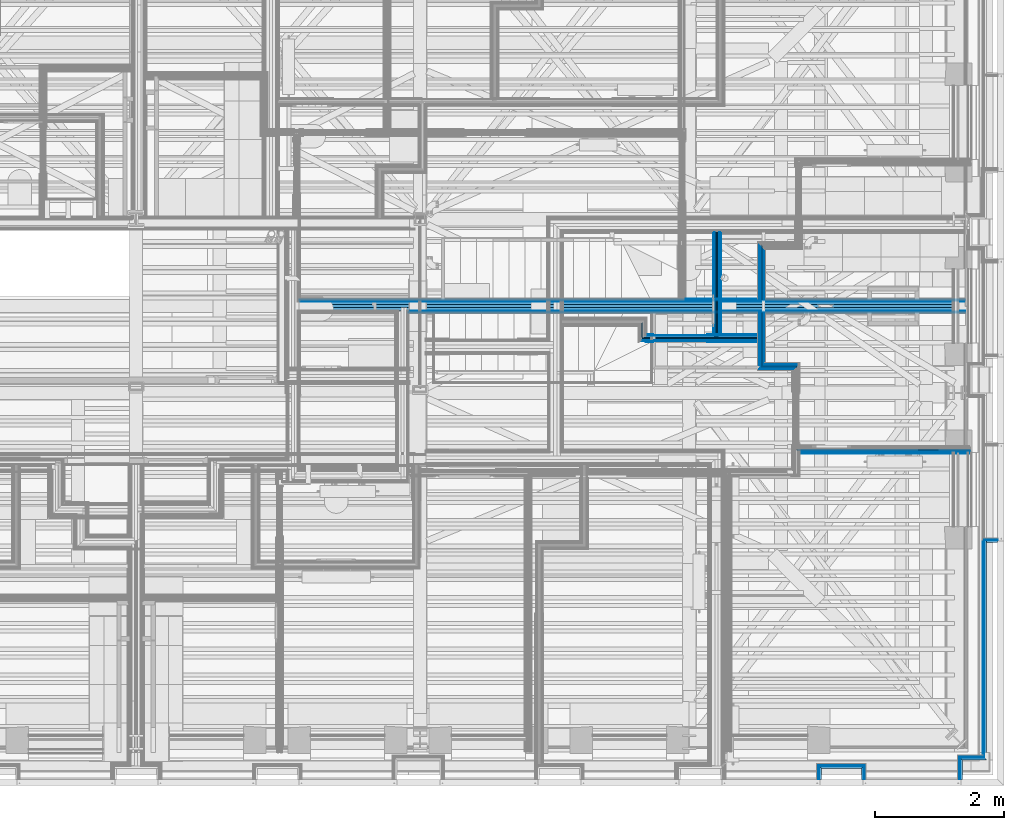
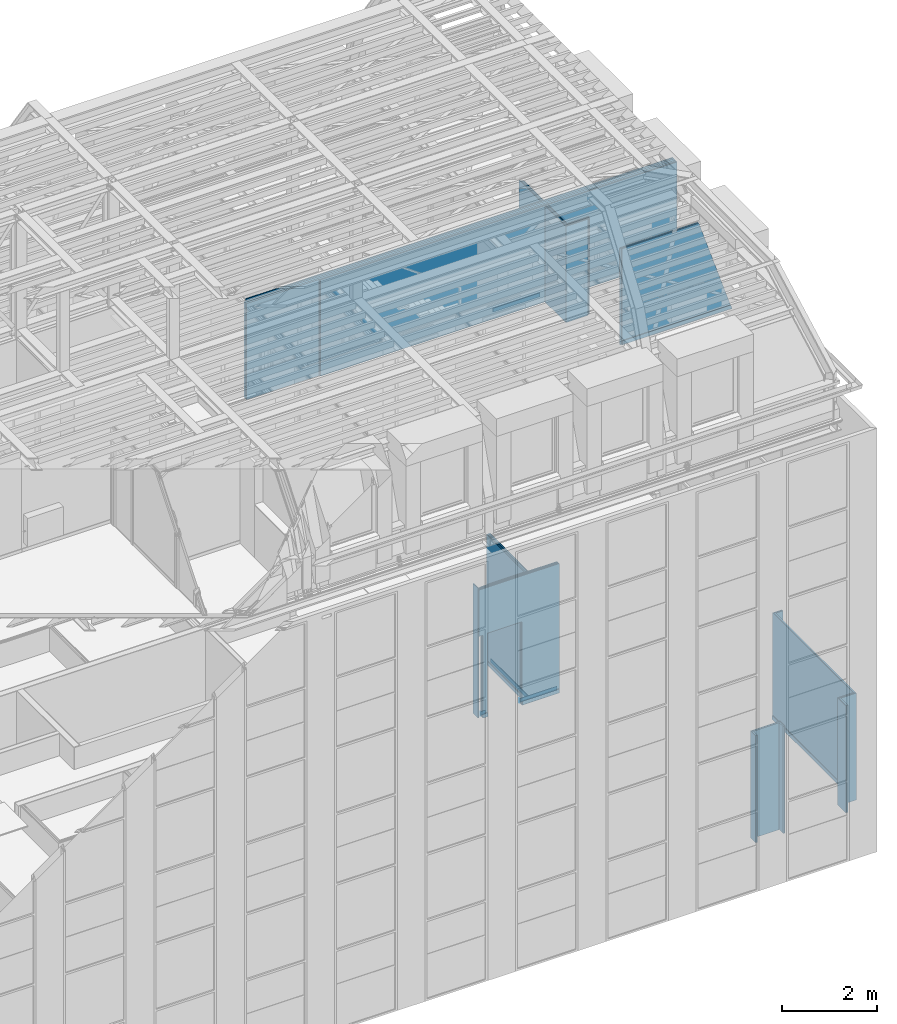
# One storey, part 54 of 183: 59 building element parts, 2 openings, 15 elements without a shape of their own.
"""IFC2X3 building model written with IfcOpenShell, lengths in metres."""

from ifc_helpers import new_model, entity, si_unit, converted_unit, derived_unit, money_unit, direction, frame, frame_2d, origin_with_axes, place, context, subcontext, project, spatial, polyline, rectangle, outline, extrude, clip, halfspace, material, type_object, element, aggregate, save


model = new_model("IFC2X3")

# Units and contexts
model_context = context("Model", 3, precision=1e-05, world=origin_with_axes(), true_north=direction((0.0, 1.0)))
body_context = subcontext(model_context, "Body", "Model", "MODEL_VIEW", scale=1.0)
ifc_project = project(units=[si_unit("LENGTHUNIT", "METRE"), si_unit("AREAUNIT", "SQUARE_METRE"), si_unit("VOLUMEUNIT", "CUBIC_METRE"), si_unit("ABSORBEDDOSEUNIT", "GRAY"), si_unit("AMOUNTOFSUBSTANCEUNIT", "MOLE"), si_unit("DOSEEQUIVALENTUNIT", "SIEVERT"), si_unit("ELECTRICCAPACITANCEUNIT", "FARAD"), si_unit("ELECTRICCHARGEUNIT", "COULOMB"), si_unit("ELECTRICCONDUCTANCEUNIT", "SIEMENS"), si_unit("ELECTRICCURRENTUNIT", "AMPERE"), si_unit("ELECTRICRESISTANCEUNIT", "OHM"), si_unit("ELECTRICVOLTAGEUNIT", "VOLT"), si_unit("ENERGYUNIT", "JOULE"), si_unit("FORCEUNIT", "NEWTON"), si_unit("FREQUENCYUNIT", "HERTZ"), si_unit("ILLUMINANCEUNIT", "LUX"), si_unit("INDUCTANCEUNIT", "HENRY"), si_unit("LUMINOUSFLUXUNIT", "LUMEN"), si_unit("LUMINOUSINTENSITYUNIT", "CANDELA"), si_unit("MAGNETICFLUXDENSITYUNIT", "TESLA"), si_unit("MAGNETICFLUXUNIT", "WEBER"), si_unit("MASSUNIT", "GRAM"), converted_unit("PLANEANGLEUNIT", "degree", entity("IfcReal", 0.0174532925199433), si_unit("PLANEANGLEUNIT", "RADIAN"), dimensions=[0, 0, 0, 0, 0, 0, 0]), si_unit("POWERUNIT", "WATT"), si_unit("PRESSUREUNIT", "PASCAL"), si_unit("RADIOACTIVITYUNIT", "BECQUEREL"), si_unit("SOLIDANGLEUNIT", "STERADIAN"), si_unit("THERMODYNAMICTEMPERATUREUNIT", "KELVIN"), si_unit("TIMEUNIT", "SECOND"), derived_unit("ACCELERATIONUNIT", [(si_unit("LENGTHUNIT", "METRE"), 1), (si_unit("TIMEUNIT", "SECOND"), -2)]), derived_unit("ANGULARVELOCITYUNIT", [(converted_unit("PLANEANGLEUNIT", "degree", entity("IfcReal", 0.0174532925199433), si_unit("PLANEANGLEUNIT", "RADIAN"), dimensions=[0, 0, 0, 0, 0, 0, 0]), 1), (si_unit("TIMEUNIT", "SECOND"), -1)]), derived_unit("CURVATUREUNIT", [(converted_unit("PLANEANGLEUNIT", "degree", entity("IfcReal", 0.0174532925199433), si_unit("PLANEANGLEUNIT", "RADIAN"), dimensions=[0, 0, 0, 0, 0, 0, 0]), 1), (si_unit("LENGTHUNIT", "METRE"), -1)]), derived_unit("DYNAMICVISCOSITYUNIT", [(si_unit("PRESSUREUNIT", "PASCAL"), 1), (si_unit("TIMEUNIT", "SECOND"), 1)]), derived_unit("HEATFLUXDENSITYUNIT", [(si_unit("POWERUNIT", "WATT"), 1), (si_unit("LENGTHUNIT", "METRE"), -2)]), derived_unit("HEATINGVALUEUNIT", [(si_unit("ENERGYUNIT", "JOULE"), 1), (si_unit("MASSUNIT", "GRAM"), -1)]), derived_unit("INTEGERCOUNTRATEUNIT", [(si_unit("TIMEUNIT", "SECOND"), -1)]), derived_unit("IONCONCENTRATIONUNIT", [(si_unit("MASSUNIT", "GRAM"), 1), (si_unit("VOLUMEUNIT", "CUBIC_METRE"), -1)]), derived_unit("ISOTHERMALMOISTURECAPACITYUNIT", [(si_unit("VOLUMEUNIT", "CUBIC_METRE"), 1), (si_unit("MASSUNIT", "GRAM"), -1)]), derived_unit("KINEMATICVISCOSITYUNIT", [(si_unit("AREAUNIT", "SQUARE_METRE"), 1), (si_unit("TIMEUNIT", "SECOND"), -1)]), derived_unit("LINEARFORCEUNIT", [(si_unit("FORCEUNIT", "NEWTON"), 1), (si_unit("LENGTHUNIT", "METRE"), -1)]), derived_unit("LINEARMOMENTUNIT", [(si_unit("FORCEUNIT", "NEWTON"), 1), (si_unit("LENGTHUNIT", "METRE"), -1)]), derived_unit("LINEARSTIFFNESSUNIT", [(si_unit("FORCEUNIT", "NEWTON"), 1), (si_unit("LENGTHUNIT", "METRE"), -1)]), derived_unit("LINEARVELOCITYUNIT", [(si_unit("LENGTHUNIT", "METRE"), 1), (si_unit("TIMEUNIT", "SECOND"), -1)]), derived_unit("LUMINOUSINTENSITYDISTRIBUTIONUNIT", [(si_unit("LUMINOUSINTENSITYUNIT", "CANDELA"), 1), (si_unit("LUMINOUSFLUXUNIT", "LUMEN"), -1)]), derived_unit("MASSDENSITYUNIT", [(si_unit("MASSUNIT", "GRAM"), 1), (si_unit("VOLUMEUNIT", "CUBIC_METRE"), -1)]), derived_unit("MASSFLOWRATEUNIT", [(si_unit("MASSUNIT", "GRAM"), 1), (si_unit("TIMEUNIT", "SECOND"), -1)]), derived_unit("MASSPERLENGTHUNIT", [(si_unit("MASSUNIT", "GRAM"), 1), (si_unit("LENGTHUNIT", "METRE"), -1)]), derived_unit("MODULUSOFELASTICITYUNIT", [(si_unit("FORCEUNIT", "NEWTON"), 1), (si_unit("AREAUNIT", "SQUARE_METRE"), -1)]), derived_unit("MODULUSOFLINEARSUBGRADEREACTIONUNIT", [(si_unit("FORCEUNIT", "NEWTON"), 1), (si_unit("LENGTHUNIT", "METRE"), -2)]), derived_unit("MODULUSOFROTATIONALSUBGRADEREACTIONUNIT", [(si_unit("FORCEUNIT", "NEWTON"), 1), (si_unit("LENGTHUNIT", "METRE"), 1)]), derived_unit("MODULUSOFSUBGRADEREACTIONUNIT", [(si_unit("FORCEUNIT", "NEWTON"), 1), (si_unit("VOLUMEUNIT", "CUBIC_METRE"), -1)]), derived_unit("MOISTUREDIFFUSIVITYUNIT", [(si_unit("VOLUMEUNIT", "CUBIC_METRE"), 1), (si_unit("TIMEUNIT", "SECOND"), -1)]), derived_unit("MOLECULARWEIGHTUNIT", [(si_unit("MASSUNIT", "GRAM"), 1), (si_unit("AMOUNTOFSUBSTANCEUNIT", "MOLE"), -1)]), derived_unit("PLANARFORCEUNIT", [(si_unit("FORCEUNIT", "NEWTON"), 1), (si_unit("LENGTHUNIT", "METRE"), -2)]), derived_unit("ROTATIONALFREQUENCYUNIT", [(si_unit("TIMEUNIT", "SECOND"), -1)]), derived_unit("ROTATIONALMASSUNIT", [(si_unit("MASSUNIT", "GRAM"), 1), (si_unit("LENGTHUNIT", "METRE"), 2)]), derived_unit("ROTATIONALSTIFFNESSUNIT", [(si_unit("FORCEUNIT", "NEWTON"), 1), (si_unit("LENGTHUNIT", "METRE"), 1), (converted_unit("PLANEANGLEUNIT", "degree", entity("IfcReal", 0.0174532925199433), si_unit("PLANEANGLEUNIT", "RADIAN"), dimensions=[0, 0, 0, 0, 0, 0, 0]), -1)]), derived_unit("SECTIONAREAINTEGRALUNIT", [(si_unit("LENGTHUNIT", "METRE"), 5)]), derived_unit("SECTIONMODULUSUNIT", [(si_unit("LENGTHUNIT", "METRE"), 3)]), derived_unit("SHEARMODULUSUNIT", [(si_unit("FORCEUNIT", "NEWTON"), 1), (si_unit("AREAUNIT", "SQUARE_METRE"), -1)]), derived_unit("SOUNDPOWERUNIT", [(si_unit("ENERGYUNIT", "JOULE"), 1), (si_unit("TIMEUNIT", "SECOND"), -1)]), derived_unit("SPECIFICHEATCAPACITYUNIT", [(si_unit("FORCEUNIT", "NEWTON"), 1), (si_unit("MASSUNIT", "GRAM"), -1), (si_unit("THERMODYNAMICTEMPERATUREUNIT", "KELVIN"), -1)]), derived_unit("TEMPERATUREGRADIENTUNIT", [(si_unit("THERMODYNAMICTEMPERATUREUNIT", "KELVIN"), 1), (si_unit("LENGTHUNIT", "METRE"), -1)]), derived_unit("THERMALADMITTANCEUNIT", [(si_unit("POWERUNIT", "WATT"), 1), (si_unit("AREAUNIT", "SQUARE_METRE"), -1), (si_unit("THERMODYNAMICTEMPERATUREUNIT", "KELVIN"), -1)]), derived_unit("THERMALCONDUCTANCEUNIT", [(si_unit("POWERUNIT", "WATT"), 1), (si_unit("LENGTHUNIT", "METRE"), -1), (si_unit("THERMODYNAMICTEMPERATUREUNIT", "KELVIN"), -1)]), derived_unit("THERMALEXPANSIONCOEFFICIENTUNIT", [(si_unit("THERMODYNAMICTEMPERATUREUNIT", "KELVIN"), -1)]), derived_unit("THERMALRESISTANCEUNIT", [(si_unit("AREAUNIT", "SQUARE_METRE"), 1), (si_unit("POWERUNIT", "WATT"), -1)]), derived_unit("THERMALTRANSMITTANCEUNIT", [(si_unit("POWERUNIT", "WATT"), 1), (si_unit("AREAUNIT", "SQUARE_METRE"), -1), (si_unit("THERMODYNAMICTEMPERATUREUNIT", "KELVIN"), -1)]), derived_unit("TORQUEUNIT", [(si_unit("FORCEUNIT", "NEWTON"), 1), (si_unit("LENGTHUNIT", "METRE"), 1)]), derived_unit("VAPORPERMEABILITYUNIT", [(si_unit("MASSUNIT", "GRAM"), 1), (si_unit("TIMEUNIT", "SECOND"), -1)]), derived_unit("VOLUMETRICFLOWRATEUNIT", [(si_unit("VOLUMEUNIT", "CUBIC_METRE"), 1), (si_unit("TIMEUNIT", "SECOND"), -1)]), derived_unit("WARPINGCONSTANTUNIT", [(si_unit("LENGTHUNIT", "METRE"), 6)]), derived_unit("WARPINGMOMENTUNIT", [(si_unit("FORCEUNIT", "NEWTON"), 1), (si_unit("LENGTHUNIT", "METRE"), 2)]), money_unit("GBP")], contexts=[model_context])

# Site, building, storey
site_placement = place(None, origin_with_axes())
site = spatial("IfcSite", under=ifc_project, at=site_placement, Name="Site", CompositionType="ELEMENT")
building_placement = place(site_placement, origin_with_axes())
building = spatial("IfcBuilding", under=site, at=building_placement, Name="Building01", CompositionType="ELEMENT")
storey_placement = place(building_placement, frame((0.0, 0.0, 5.15), z_axis=(0.0, 0.0, 1.0), x_axis=(1.0, 0.0, 0.0)))
storey = spatial("IfcBuildingStorey", under=building, at=storey_placement, Name="1F", CompositionType="ELEMENT", Elevation=5.15)

# Wall, building element parts
wall_type_1 = type_object("IfcWallType", Name="SHE_A-Walls_Type06d_ExternalWallInsulation_48mm", PredefinedType="NOTDEFINED")
wall_1_placement = place(storey_placement, frame((24.143, 0.1, 0.0), z_axis=(0.0, 0.0, 1.0), x_axis=(0.0, 1.0, 0.0)))
wall_1 = element("IfcWall", 1, at=wall_1_placement, inside=storey, type_object=wall_type_1, Name="6D", ObjectType="SHE_A-Walls_Type06d_ExternalWallInsulation_48mm")
ifc_material_1 = material(Name="A_BSUK_Insulation")
placement_1 = place(wall_1_placement, origin_with_axes())
building_element_part_1 = element("IfcBuildingElementPart", 2, at=placement_1, material=ifc_material_1, Name="1", context=body_context, shape_type="SweptSolid", body=[
    extrude(outline(polyline([(0.206, 0.036), (0.0, 0.036), (0.0, 0.0), (0.17, 0.0), (0.206, 0.036)])), origin_with_axes(), (0.0, 0.0, 1.0), 2.74),
])
ifc_material_2 = material(Name="A_BSUK_WallInternal_Finishes_Plasterboard")
building_element_part_2 = element("IfcBuildingElementPart", 3, at=placement_1, material=ifc_material_2, Name="2", context=body_context, shape_type="SweptSolid", body=[
    extrude(outline(polyline([(0.218, 0.048), (0.0, 0.048), (0.0, 0.035), (0.205, 0.035), (0.218, 0.048)])), origin_with_axes(), (0.0, 0.0, 1.0), 2.74),
])
aggregate(wall_1, [building_element_part_1, building_element_part_2])

wall_2_placement = place(storey_placement, frame((24.143, 0.27, 0.0), z_axis=(0.0, 0.0, 1.0), x_axis=(1.0, 0.0, 0.0)))
wall_2 = element("IfcWall", 4, at=wall_2_placement, inside=storey, type_object=wall_type_1, Name="6D", ObjectType="SHE_A-Walls_Type06d_ExternalWallInsulation_48mm")
placement_2 = place(wall_2_placement, origin_with_axes())
building_element_part_3 = element("IfcBuildingElementPart", 5, at=placement_2, material=ifc_material_1, Name="1", context=body_context, shape_type="SweptSolid", body=[
    extrude(outline(polyline([(0.66, 0.036), (-0.036, 0.036), (0.0, 0.0), (0.624, 0.0), (0.66, 0.036)])), origin_with_axes(), (0.0, 0.0, 1.0), 2.74),
])
building_element_part_4 = element("IfcBuildingElementPart", 6, at=placement_2, material=ifc_material_2, Name="2", context=body_context, shape_type="SweptSolid", body=[
    extrude(outline(polyline([(0.672, 0.048), (-0.048, 0.048), (-0.035, 0.035), (0.659, 0.035), (0.672, 0.048)])), origin_with_axes(), (0.0, 0.0, 1.0), 2.74),
])
aggregate(wall_2, [building_element_part_3, building_element_part_4])

wall_3_placement = place(storey_placement, frame((24.767, 0.27, 0.0), z_axis=(0.0, 0.0, 1.0), x_axis=(0.0, -1.0, 0.0)))
wall_3 = element("IfcWall", 7, at=wall_3_placement, inside=storey, type_object=wall_type_1, Name="6D", ObjectType="SHE_A-Walls_Type06d_ExternalWallInsulation_48mm")
placement_3 = place(wall_3_placement, origin_with_axes())
building_element_part_5 = element("IfcBuildingElementPart", 8, at=placement_3, material=ifc_material_1, Name="1", context=body_context, shape_type="SweptSolid", body=[
    extrude(outline(polyline([(-0.036, 0.036), (0.0, 0.0), (0.17, 0.0), (0.17, 0.036), (-0.036, 0.036)])), origin_with_axes(), (0.0, 0.0, 1.0), 2.74),
])
building_element_part_6 = element("IfcBuildingElementPart", 9, at=placement_3, material=ifc_material_2, Name="2", context=body_context, shape_type="SweptSolid", body=[
    extrude(outline(polyline([(-0.048, 0.048), (-0.035, 0.035), (0.17, 0.035), (0.17, 0.048), (-0.048, 0.048)])), origin_with_axes(), (0.0, 0.0, 1.0), 2.74),
])
aggregate(wall_3, [building_element_part_5, building_element_part_6])

wall_4_placement = place(storey_placement, frame((26.333, 0.1, 0.0), z_axis=(0.0, 0.0, 1.0), x_axis=(0.0, 1.0, 0.0)))
wall_4 = element("IfcWall", 10, at=wall_4_placement, inside=storey, type_object=wall_type_1, Name="6D", ObjectType="SHE_A-Walls_Type06d_ExternalWallInsulation_48mm")
placement_4 = place(wall_4_placement, origin_with_axes())
building_element_part_7 = element("IfcBuildingElementPart", 11, at=placement_4, material=ifc_material_1, Name="1", context=body_context, shape_type="SweptSolid", body=[
    extrude(outline(polyline([(0.336, 0.036), (0.0, 0.036), (0.0, 0.0), (0.3, 0.0), (0.336, 0.036)])), origin_with_axes(), (0.0, 0.0, 1.0), 2.74),
])
building_element_part_8 = element("IfcBuildingElementPart", 12, at=placement_4, material=ifc_material_2, Name="2", context=body_context, shape_type="SweptSolid", body=[
    extrude(outline(polyline([(0.348, 0.048), (0.0, 0.048), (0.0, 0.035), (0.335, 0.035), (0.348, 0.048)])), origin_with_axes(), (0.0, 0.0, 1.0), 2.74),
])
aggregate(wall_4, [building_element_part_7, building_element_part_8])

wall_5_placement = place(storey_placement, frame((26.333, 0.4, 0.0), z_axis=(0.0, 0.0, 1.0), x_axis=(1.0, 0.0, 0.0)))
wall_5 = element("IfcWall", 13, at=wall_5_placement, inside=storey, type_object=wall_type_1, Name="6D", ObjectType="SHE_A-Walls_Type06d_ExternalWallInsulation_48mm")
placement_5 = place(wall_5_placement, origin_with_axes())
building_element_part_9 = element("IfcBuildingElementPart", 14, at=placement_5, material=ifc_material_1, Name="1", context=body_context, shape_type="SweptSolid", body=[
    extrude(outline(polyline([(0.341, 0.036), (-0.036, 0.036), (0.0, 0.0), (0.377, 0.0), (0.341, 0.036)])), origin_with_axes(), (0.0, 0.0, 1.0), 2.74),
])
building_element_part_10 = element("IfcBuildingElementPart", 15, at=placement_5, material=ifc_material_2, Name="2", context=body_context, shape_type="SweptSolid", body=[
    extrude(outline(polyline([(0.329, 0.048), (-0.048, 0.048), (-0.035, 0.035), (0.342, 0.035), (0.329, 0.048)])), origin_with_axes(), (0.0, 0.0, 1.0), 2.74),
])
aggregate(wall_5, [building_element_part_9, building_element_part_10])

wall_6_placement = place(storey_placement, frame((26.71, 0.4, 0.0), z_axis=(0.0, 0.0, 1.0), x_axis=(0.0, 1.0, 0.0)))
wall_6 = element("IfcWall", 16, at=wall_6_placement, inside=storey, type_object=wall_type_1, Name="6D", ObjectType="SHE_A-Walls_Type06d_ExternalWallInsulation_48mm")
placement_6 = place(wall_6_placement, origin_with_axes())
building_element_part_11 = element("IfcBuildingElementPart", 17, at=placement_6, material=ifc_material_1, Name="1", context=body_context, shape_type="SweptSolid", body=[
    extrude(outline(polyline([(3.41018, 0.036), (0.036, 0.036), (0.0, 0.0), (3.41018, 0.0), (3.41018, 0.036)])), origin_with_axes(), (0.0, 0.0, 1.0), 2.74),
])
building_element_part_12 = element("IfcBuildingElementPart", 18, at=placement_6, material=ifc_material_2, Name="2", context=body_context, shape_type="SweptSolid", body=[
    extrude(outline(polyline([(3.42218, 0.048), (0.048, 0.048), (0.035, 0.035), (3.42218, 0.035), (3.42218, 0.048)])), origin_with_axes(), (0.0, 0.0, 1.0), 2.74),
])
ifc_material_3 = material(Name="A_BSUK_Walls_Timber")
building_element_part_13 = element("IfcBuildingElementPart", 19, at=placement_6, material=ifc_material_3, Name="3", context=body_context, shape_type="SweptSolid", body=[
    extrude(outline(polyline([(0.063, 0.063), (0.048, 0.048), (3.42218, 0.048), (3.42218, 0.063), (0.063, 0.063)])), frame((0.0, 0.0, 0.015), z_axis=(0.0, 0.0, 1.0), x_axis=(1.0, 0.0, 0.0)), (0.0, 0.0, 1.0), 0.1),
])
aggregate(wall_6, [building_element_part_11, building_element_part_12, building_element_part_13])

# Wall, building element part
wall_type_2 = type_object("IfcWallType", Name="SHE_A-Walls_Type05a_Partition_95mm_tall", PredefinedType="NOTDEFINED")
wall_7_placement = place(storey_placement, frame((21.382661, 6.965, 0.0), z_axis=(0.0, 0.0, 1.0), x_axis=(0.0, 1.0, 0.0)))
wall_7 = element("IfcWall", 20, at=wall_7_placement, inside=storey, type_object=wall_type_2, Name="5A", ObjectType="SHE_A-Walls_Type05a_Partition_95mm_tall")
ifc_material_4 = material(Name="Air Cavity")
building_element_part_14_placement = place(wall_7_placement, origin_with_axes())
building_element_part_14 = element("IfcBuildingElementPart", 21, at=building_element_part_14_placement, material=ifc_material_4, Name="5", context=body_context, shape_type="SweptSolid", body=[
    extrude(outline(polyline([(0.202, 0.048), (0.0, 0.048), (0.0, 0.025), (0.225, 0.025), (0.202, 0.048)])), origin_with_axes(), (0.0, 0.0, 1.0), 3.32),
])
aggregate(wall_7, [building_element_part_14])

# Wall, openings, building element parts
wall_8_placement = place(storey_placement, frame((21.357661, 6.94, 0.0), z_axis=(0.0, 0.0, 1.0), x_axis=(1.0, 0.0, 0.0)))
wall_8 = element("IfcWall", 22, at=wall_8_placement, inside=storey, type_object=wall_type_2, Name="5A", ObjectType="SHE_A-Walls_Type05a_Partition_95mm_tall")
opening_1_placement = place(wall_8_placement, frame((-0.773, -0.05, -0.015), z_axis=(0.0, 0.0, 1.0), x_axis=(1.0, 0.0, 0.0)))
element("IfcOpeningElement", 23, at=opening_1_placement, cuts=wall_8, Name="Opening", ObjectType="Opening", context=body_context, shape_type="SweptSolid", body=[
    extrude(rectangle(XDim=0.834, YDim=2.142, at=frame_2d((-0.417, 1.071), x_axis=(1.0, 0.0))), frame((0.0, 0.0, 0.0), z_axis=(0.0, 1.0, 0.0), x_axis=(-1.0, 0.0, 0.0)), (0.0, 0.0, 1.0), 0.125),
])
opening_2_placement = place(wall_8_placement, frame((0.177, -0.05, 0.0), z_axis=(0.0, 0.0, 1.0), x_axis=(1.0, 0.0, 0.0)))
element("IfcOpeningElement", 24, at=opening_2_placement, cuts=wall_8, Name="Opening", ObjectType="Opening", context=body_context, shape_type="SweptSolid", body=[
    extrude(rectangle(XDim=2.142, YDim=0.834, at=frame_2d((-0.417, 1.071), x_axis=(0.0, -1.0))), frame((0.0, 0.0, 0.0), z_axis=(0.0, 1.0, 0.0), x_axis=(-1.0, 0.0, 0.0)), (0.0, 0.0, 1.0), 0.125),
])
placement_7 = place(wall_8_placement, origin_with_axes())
building_element_part_15 = element("IfcBuildingElementPart", 25, at=placement_7, material=ifc_material_3, Name="1", context=body_context, shape_type="SweptSolid", body=[
    extrude(outline(polyline([(1.913868, -0.035), (-0.035, -0.035), (-0.05, -0.05), (1.913868, -0.05), (1.913868, -0.035)])), frame((0.0, 0.0, 0.015), z_axis=(0.0, 0.0, 1.0), x_axis=(1.0, 0.0, 0.0)), (0.0, 0.0, 1.0), 0.1),
])
building_element_part_16 = element("IfcBuildingElementPart", 26, at=placement_7, material=ifc_material_2, Name="2", context=body_context, shape_type="SweptSolid", body=[
    extrude(outline(polyline([(1.913868, -0.023), (-0.023, -0.023), (-0.035, -0.035), (1.913868, -0.035), (1.913868, -0.023)])), origin_with_axes(), (0.0, 0.0, 1.0), 3.32),
])
building_element_part_17 = element("IfcBuildingElementPart", 27, at=placement_7, material=ifc_material_4, Name="3", context=body_context, shape_type="SweptSolid", body=[
    extrude(outline(polyline([(1.913868, 0.0), (0.0, 0.0), (-0.023, -0.023), (1.913868, -0.023), (1.913868, 0.0)])), origin_with_axes(), (0.0, 0.0, 1.0), 3.32),
])
building_element_part_18 = element("IfcBuildingElementPart", 28, at=placement_7, material=ifc_material_1, Name="4", context=body_context, shape_type="SweptSolid", body=[
    extrude(rectangle(XDim=1.913868, YDim=0.025, at=frame_2d((0.956934, 0.0125), x_axis=(-1.0, 0.0))), origin_with_axes(), (0.0, 0.0, 1.0), 3.32),
])
building_element_part_19 = element("IfcBuildingElementPart", 29, at=placement_7, material=ifc_material_4, Name="5", context=body_context, shape_type="SweptSolid", body=[
    extrude(rectangle(XDim=1.913868, YDim=0.023, at=frame_2d((0.956934, 0.0365), x_axis=(-1.0, 0.0))), origin_with_axes(), (0.0, 0.0, 1.0), 3.32),
])
building_element_part_20 = element("IfcBuildingElementPart", 30, at=placement_7, material=ifc_material_2, Name="6", context=body_context, shape_type="SweptSolid", body=[
    extrude(outline(polyline([(1.131, 0.06), (0.06, 0.06), (0.048, 0.048), (1.131, 0.048), (1.131, 0.06)])), origin_with_axes(), (0.0, 0.0, 1.0), 3.32),
])
building_element_part_21 = element("IfcBuildingElementPart", 31, at=placement_7, material=ifc_material_2, Name="7", context=body_context, shape_type="SweptSolid", body=[
    extrude(outline(polyline([(1.913868, 0.06), (0.06, 0.06), (0.048, 0.048), (1.913868, 0.048), (1.913868, 0.06)])), origin_with_axes(), (0.0, 0.0, 1.0), 3.32),
])
building_element_part_22 = element("IfcBuildingElementPart", 32, at=placement_7, material=ifc_material_3, Name="8", context=body_context, shape_type="SweptSolid", body=[
    extrude(outline(polyline([(1.119, 0.075), (0.075, 0.075), (0.06, 0.06), (1.119, 0.06), (1.119, 0.075)])), frame((0.0, 0.0, 0.015), z_axis=(0.0, 0.0, 1.0), x_axis=(1.0, 0.0, 0.0)), (0.0, 0.0, 1.0), 0.1),
])
building_element_part_23 = element("IfcBuildingElementPart", 33, at=placement_7, material=ifc_material_3, Name="9", context=body_context, shape_type="SweptSolid", body=[
    extrude(outline(polyline([(1.913868, 0.075), (0.075, 0.075), (0.06, 0.06), (1.913868, 0.06), (1.913868, 0.075)])), frame((0.0, 0.0, 0.015), z_axis=(0.0, 0.0, 1.0), x_axis=(1.0, 0.0, 0.0)), (0.0, 0.0, 1.0), 0.1),
])
aggregate(wall_8, [building_element_part_15, building_element_part_16, building_element_part_17, building_element_part_18, building_element_part_19, building_element_part_20, building_element_part_21, building_element_part_22, building_element_part_23])

# Wall, building element parts
wall_9_placement = place(storey_placement, frame((22.536661, 6.965, 0.0), z_axis=(0.0, 0.0, 1.0), x_axis=(0.0, 1.0, 0.0)))
wall_9 = element("IfcWall", 34, at=wall_9_placement, inside=storey, type_object=wall_type_2, Name="5A", ObjectType="SHE_A-Walls_Type05a_Partition_95mm_tall")
placement_8 = place(wall_9_placement, origin_with_axes())
building_element_part_24 = element("IfcBuildingElementPart", 35, at=placement_8, material=ifc_material_3, Name="1", context=body_context, shape_type="SweptSolid", body=[
    extrude(rectangle(XDim=1.565, YDim=0.015, at=frame_2d((0.8325, -0.0425), x_axis=(-1.0, 0.0))), frame((0.0, 0.0, 0.015), z_axis=(0.0, 0.0, 1.0), x_axis=(1.0, 0.0, 0.0)), (0.0, 0.0, 1.0), 0.1),
])
building_element_part_25 = element("IfcBuildingElementPart", 36, at=placement_8, material=ifc_material_2, Name="2", context=body_context, shape_type="SweptSolid", body=[
    extrude(rectangle(XDim=1.595, YDim=0.012, at=frame_2d((0.8325, -0.029), x_axis=(-1.0, 0.0))), origin_with_axes(), (0.0, 0.0, 1.0), 3.32),
])
building_element_part_26 = element("IfcBuildingElementPart", 37, at=placement_8, material=ifc_material_4, Name="3", context=body_context, shape_type="SweptSolid", body=[
    extrude(rectangle(XDim=1.595, YDim=0.023, at=frame_2d((0.8325, -0.0115), x_axis=(-1.0, 0.0))), origin_with_axes(), (0.0, 0.0, 1.0), 3.32),
])
building_element_part_27 = element("IfcBuildingElementPart", 38, at=placement_8, material=ifc_material_1, Name="4", context=body_context, shape_type="SweptSolid", body=[
    extrude(rectangle(XDim=1.63, YDim=0.025, at=frame_2d((0.815, 0.0125), x_axis=(-1.0, 0.0))), origin_with_axes(), (0.0, 0.0, 1.0), 3.32),
])
building_element_part_28 = element("IfcBuildingElementPart", 39, at=placement_8, material=ifc_material_4, Name="5", context=body_context, shape_type="SweptSolid", body=[
    extrude(rectangle(XDim=1.63, YDim=0.023, at=frame_2d((0.815, 0.0365), x_axis=(-1.0, 0.0))), origin_with_axes(), (0.0, 0.0, 1.0), 3.32),
])
building_element_part_29 = element("IfcBuildingElementPart", 40, at=placement_8, material=ifc_material_2, Name="6", context=body_context, shape_type="SweptSolid", body=[
    extrude(rectangle(XDim=1.595, YDim=0.012, at=frame_2d((0.8325, 0.054), x_axis=(-1.0, 0.0))), origin_with_axes(), (0.0, 0.0, 1.0), 3.32),
])
building_element_part_30 = element("IfcBuildingElementPart", 41, at=placement_8, material=ifc_material_3, Name="7", context=body_context, shape_type="SweptSolid", body=[
    extrude(rectangle(XDim=1.565, YDim=0.015, at=frame_2d((0.8325, 0.0675), x_axis=(-1.0, 0.0))), frame((0.0, 0.0, 0.015), z_axis=(0.0, 0.0, 1.0), x_axis=(1.0, 0.0, 0.0)), (0.0, 0.0, 1.0), 0.1),
])
aggregate(wall_9, [building_element_part_24, building_element_part_25, building_element_part_26, building_element_part_27, building_element_part_28, building_element_part_29, building_element_part_30])

wall_10_placement = place(storey_placement, frame((26.71, 3.77418, 0.0), z_axis=(0.0, 0.0, 1.0), x_axis=(1.0, 0.0, 0.0)))
wall_10 = element("IfcWall", 42, at=wall_10_placement, inside=storey, type_object=wall_type_1, Name="6D", ObjectType="SHE_A-Walls_Type06d_ExternalWallInsulation_48mm")
placement_9 = place(wall_10_placement, origin_with_axes())
building_element_part_31 = element("IfcBuildingElementPart", 43, at=placement_9, material=ifc_material_1, Name="1", context=body_context, shape_type="SweptSolid", body=[
    extrude(rectangle(XDim=0.036, YDim=0.17, at=frame_2d((0.085, 0.018), x_axis=(0.0, -1.0))), origin_with_axes(), (0.0, 0.0, 1.0), 2.74),
])
building_element_part_32 = element("IfcBuildingElementPart", 44, at=placement_9, material=ifc_material_2, Name="2", context=body_context, shape_type="SweptSolid", body=[
    extrude(rectangle(XDim=0.013, YDim=0.205, at=frame_2d((0.0675, 0.0415), x_axis=(0.0, -1.0))), origin_with_axes(), (0.0, 0.0, 1.0), 2.74),
])
aggregate(wall_10, [building_element_part_31, building_element_part_32])

wall_type_3 = type_object("IfcWallType", Name="SHE_A-Walls_Type01d_Partywall_200mm_twin", PredefinedType="NOTDEFINED")
wall_11_placement = place(storey_placement, frame((26.380061, 7.474915, 9.78), z_axis=(0.0, 0.0, 1.0), x_axis=(-1.0, 0.0, 0.0)))
wall_11 = element("IfcWall", 45, at=wall_11_placement, inside=storey, type_object=wall_type_3, Name="1D", ObjectType="SHE_A-Walls_Type01d_Partywall_200mm_twin")
placement_10 = place(wall_11_placement, origin_with_axes())
building_element_part_33 = element("IfcBuildingElementPart", 46, at=placement_10, material=ifc_material_3, Name="2", context=body_context, shape_type="SweptSolid", body=[
    extrude(rectangle(XDim=1.143846, YDim=0.015, at=frame_2d((3.773162, -0.0825), x_axis=(-1.0, 0.0))), frame((0.0, 0.0, 0.015), z_axis=(0.0, 0.0, 1.0), x_axis=(1.0, 0.0, 0.0)), (0.0, 0.0, 1.0), 0.1),
])
building_element_part_34 = element("IfcBuildingElementPart", 47, at=placement_10, material=ifc_material_2, Name="5", context=body_context, shape_type="SweptSolid", body=[
    extrude(rectangle(XDim=10.341621, YDim=0.015, at=frame_2d((5.17081, -0.0675), x_axis=(-1.0, 0.0))), origin_with_axes(), (0.0, 0.0, 1.0), 2.468),
])
building_element_part_35 = element("IfcBuildingElementPart", 48, at=placement_10, material=ifc_material_2, Name="6", context=body_context, shape_type="SweptSolid", body=[
    extrude(rectangle(XDim=10.356621, YDim=0.015, at=frame_2d((5.17831, -0.0525), x_axis=(-1.0, 0.0))), origin_with_axes(), (0.0, 0.0, 1.0), 2.468),
])
building_element_part_36 = element("IfcBuildingElementPart", 49, at=placement_10, material=ifc_material_4, Name="7", context=body_context, shape_type="SweptSolid", body=[
    extrude(rectangle(XDim=10.356621, YDim=0.045, at=frame_2d((5.17831, -0.0225), x_axis=(-1.0, 0.0))), origin_with_axes(), (0.0, 0.0, 1.0), 2.468),
])
building_element_part_37 = element("IfcBuildingElementPart", 50, at=placement_10, material=ifc_material_1, Name="8", context=body_context, shape_type="SweptSolid", body=[
    extrude(rectangle(XDim=10.416621, YDim=0.05, at=frame_2d((5.20831, 0.025), x_axis=(-1.0, 0.0))), origin_with_axes(), (0.0, 0.0, 1.0), 2.468),
])
building_element_part_38 = element("IfcBuildingElementPart", 51, at=placement_10, material=ifc_material_4, Name="9", context=body_context, shape_type="SweptSolid", body=[
    extrude(rectangle(XDim=10.416621, YDim=0.045, at=frame_2d((5.20831, 0.0725), x_axis=(-1.0, 0.0))), origin_with_axes(), (0.0, 0.0, 1.0), 2.468),
])
building_element_part_39 = element("IfcBuildingElementPart", 52, at=placement_10, material=ifc_material_2, Name="10", context=body_context, shape_type="SweptSolid", body=[
    extrude(rectangle(XDim=8.656621, YDim=0.015, at=frame_2d((4.32831, 0.1025), x_axis=(-1.0, 0.0))), origin_with_axes(), (0.0, 0.0, 1.0), 2.468),
])
building_element_part_40 = element("IfcBuildingElementPart", 53, at=placement_10, material=ifc_material_2, Name="12", context=body_context, shape_type="SweptSolid", body=[
    extrude(rectangle(XDim=8.641621, YDim=0.015, at=frame_2d((4.32081, 0.1175), x_axis=(-1.0, 0.0))), origin_with_axes(), (0.0, 0.0, 1.0), 2.468),
])
aggregate(wall_11, [building_element_part_33, building_element_part_34, building_element_part_35, building_element_part_36, building_element_part_37, building_element_part_38, building_element_part_39, building_element_part_40])

wall_type_4 = type_object("IfcWallType", Name="SHE_A-Walls_Type05b_Partition_80mm", PredefinedType="NOTDEFINED")
wall_12_placement = place(storey_placement, frame((23.206821, 6.498085, 9.78), z_axis=(0.0, 0.0, 1.0), x_axis=(1.0, 0.0, 0.0)))
wall_12 = element("IfcWall", 54, at=wall_12_placement, inside=storey, type_object=wall_type_4, Name="5B", ObjectType="SHE_A-Walls_Type05b_Partition_80mm")
placement_11 = place(wall_12_placement, origin_with_axes())
building_element_part_41 = element("IfcBuildingElementPart", 55, at=placement_11, material=ifc_material_2, Name="2", context=body_context, shape_type="SweptSolid", body=[
    extrude(outline(polyline([(0.518179, -0.013), (-0.013, -0.013), (-0.028, -0.028), (0.503179, -0.028), (0.518179, -0.013)])), origin_with_axes(), (0.0, 0.0, 1.0), 2.468),
])
building_element_part_42 = element("IfcBuildingElementPart", 56, at=placement_11, material=ifc_material_4, Name="3", context=body_context, shape_type="SweptSolid", body=[
    extrude(outline(polyline([(0.531179, 0.0), (0.0, 0.0), (-0.013, -0.013), (0.518179, -0.013), (0.531179, 0.0)])), origin_with_axes(), (0.0, 0.0, 1.0), 2.468),
])
building_element_part_43 = element("IfcBuildingElementPart", 57, at=placement_11, material=ifc_material_1, Name="4", context=body_context, shape_type="SweptSolid", body=[
    extrude(outline(polyline([(0.556179, 0.025), (0.025, 0.025), (0.0, 0.0), (0.556179, 0.0), (0.556179, 0.025)])), origin_with_axes(), (0.0, 0.0, 1.0), 2.468),
])
building_element_part_44 = element("IfcBuildingElementPart", 58, at=placement_11, material=ifc_material_4, Name="5", context=body_context, shape_type="SweptSolid", body=[
    extrude(outline(polyline([(0.556179, 0.037), (0.037, 0.037), (0.025, 0.025), (0.556179, 0.025), (0.556179, 0.037)])), origin_with_axes(), (0.0, 0.0, 1.0), 2.468),
])
building_element_part_45 = element("IfcBuildingElementPart", 59, at=placement_11, material=ifc_material_2, Name="6", context=body_context, shape_type="SweptSolid", body=[
    extrude(outline(polyline([(0.583179, 0.052), (0.052, 0.052), (0.037, 0.037), (0.568179, 0.037), (0.583179, 0.052)])), origin_with_axes(), (0.0, 0.0, 1.0), 2.468),
])
aggregate(wall_12, [building_element_part_41, building_element_part_42, building_element_part_43, building_element_part_44, building_element_part_45])

wall_13_placement = place(storey_placement, frame((23.206821, 7.549915, 9.78), z_axis=(0.0, 0.0, 1.0), x_axis=(0.0, 1.0, 0.0)))
wall_13 = element("IfcWall", 60, at=wall_13_placement, inside=storey, type_object=wall_type_4, Name="5B", ObjectType="SHE_A-Walls_Type05b_Partition_80mm")
placement_12 = place(wall_13_placement, origin_with_axes())
building_element_part_46 = element("IfcBuildingElementPart", 61, at=placement_12, material=ifc_material_2, Name="2", context=body_context, shape_type="SweptSolid", body=[
    extrude(outline(polyline([(0.815, -0.037), (0.0, -0.037), (0.0, -0.052), (0.8, -0.052), (0.815, -0.037)])), origin_with_axes(), (0.0, 0.0, 1.0), 2.468),
])
building_element_part_47 = element("IfcBuildingElementPart", 62, at=placement_12, material=ifc_material_4, Name="3", context=body_context, shape_type="SweptSolid", body=[
    extrude(outline(polyline([(0.827, -0.025), (0.0, -0.025), (0.0, -0.037), (0.815, -0.037), (0.827, -0.025)])), origin_with_axes(), (0.0, 0.0, 1.0), 2.468),
])
building_element_part_48 = element("IfcBuildingElementPart", 63, at=placement_12, material=ifc_material_1, Name="4", context=body_context, shape_type="SweptSolid", body=[
    extrude(outline(polyline([(0.852, 0.0), (0.0, 0.0), (0.0, -0.025), (0.827, -0.025), (0.852, 0.0)])), origin_with_axes(), (0.0, 0.0, 1.0), 2.468),
])
building_element_part_49 = element("IfcBuildingElementPart", 64, at=placement_12, material=ifc_material_4, Name="5", context=body_context, shape_type="SweptSolid", body=[
    extrude(outline(polyline([(0.865, 0.013), (0.0, 0.013), (0.0, 0.0), (0.852, 0.0), (0.865, 0.013)])), origin_with_axes(), (0.0, 0.0, 1.0), 2.468),
])
building_element_part_50 = element("IfcBuildingElementPart", 65, at=placement_12, material=ifc_material_2, Name="6", context=body_context, shape_type="SweptSolid", body=[
    extrude(outline(polyline([(0.88, 0.028), (0.0, 0.028), (0.0, 0.013), (0.865, 0.013), (0.88, 0.028)])), origin_with_axes(), (0.0, 0.0, 1.0), 2.468),
])
aggregate(wall_13, [building_element_part_46, building_element_part_47, building_element_part_48, building_element_part_49, building_element_part_50])

wall_14_placement = place(storey_placement, frame((23.206821, 7.349915, 9.78), z_axis=(0.0, 0.0, 1.0), x_axis=(0.0, -1.0, 0.0)))
wall_14 = element("IfcWall", 66, at=wall_14_placement, inside=storey, type_object=wall_type_4, Name="5B", ObjectType="SHE_A-Walls_Type05b_Partition_80mm")
placement_13 = place(wall_14_placement, origin_with_axes())
building_element_part_51 = element("IfcBuildingElementPart", 67, at=placement_13, material=ifc_material_2, Name="2", context=body_context, shape_type="SweptSolid", body=[
    extrude(outline(polyline([(0.86483, -0.013), (0.0, -0.013), (0.0, -0.028), (0.87983, -0.028), (0.86483, -0.013)])), origin_with_axes(), (0.0, 0.0, 1.0), 2.468),
])
building_element_part_52 = element("IfcBuildingElementPart", 68, at=placement_13, material=ifc_material_4, Name="3", context=body_context, shape_type="SweptSolid", body=[
    extrude(outline(polyline([(0.85183, 0.0), (0.0, 0.0), (0.0, -0.013), (0.86483, -0.013), (0.85183, 0.0)])), origin_with_axes(), (0.0, 0.0, 1.0), 2.468),
])
building_element_part_53 = element("IfcBuildingElementPart", 69, at=placement_13, material=ifc_material_1, Name="4", context=body_context, shape_type="SweptSolid", body=[
    extrude(outline(polyline([(0.82683, 0.025), (0.0, 0.025), (0.0, 0.0), (0.85183, 0.0), (0.82683, 0.025)])), origin_with_axes(), (0.0, 0.0, 1.0), 2.468),
])
building_element_part_54 = element("IfcBuildingElementPart", 70, at=placement_13, material=ifc_material_4, Name="5", context=body_context, shape_type="SweptSolid", body=[
    extrude(outline(polyline([(0.81483, 0.037), (0.0, 0.037), (0.0, 0.025), (0.82683, 0.025), (0.81483, 0.037)])), origin_with_axes(), (0.0, 0.0, 1.0), 2.468),
])
building_element_part_55 = element("IfcBuildingElementPart", 71, at=placement_13, material=ifc_material_2, Name="6", context=body_context, shape_type="SweptSolid", body=[
    extrude(outline(polyline([(0.79983, 0.052), (0.0, 0.052), (0.0, 0.037), (0.81483, 0.037), (0.79983, 0.052)])), origin_with_axes(), (0.0, 0.0, 1.0), 2.468),
])
aggregate(wall_14, [building_element_part_51, building_element_part_52, building_element_part_53, building_element_part_54, building_element_part_55])

wall_15_placement = place(storey_placement, frame((23.763, 5.201915, 9.78), z_axis=(0.0, 0.0, 1.0), x_axis=(1.0, 0.0, 0.0)))
wall_15 = element("IfcWall", 72, at=wall_15_placement, inside=storey, type_object=wall_type_4, Name="5B", ObjectType="SHE_A-Walls_Type05b_Partition_80mm")
placement_14 = place(wall_15_placement, origin_with_axes())
building_element_part_56 = element("IfcBuildingElementPart", 73, at=placement_14, material=ifc_material_3, Name="1", context=body_context, shape_type="Clipping", body=[
    clip(extrude(rectangle(XDim=2.64627, YDim=0.015, at=frame_2d((1.365135, -0.0345), x_axis=(-1.0, 0.0))), frame((0.0, 0.0, 0.015), z_axis=(0.0, 0.0, 1.0), x_axis=(1.0, 0.0, 0.0)), (0.0, 0.0, 1.0), 0.1), halfspace(frame((2.435971, 0.0, 0.791495), z_axis=(-0.95105652, 0.0, -0.30901699), x_axis=(0.0, -1.0, 0.0)), True)),
])
building_element_part_57 = element("IfcBuildingElementPart", 74, at=placement_14, material=ifc_material_2, Name="2", context=body_context, shape_type="Clipping", body=[
    clip(extrude(rectangle(XDim=2.666143, YDim=0.015, at=frame_2d((1.360072, -0.0195), x_axis=(-1.0, 0.0))), origin_with_axes(), (0.0, 0.0, 1.0), 2.468), halfspace(frame((2.435971, 0.0, 0.791495), z_axis=(-0.95105652, 0.0, -0.30901699), x_axis=(0.0, -1.0, 0.0)), True)),
])
building_element_part_58 = element("IfcBuildingElementPart", 75, at=placement_14, material=ifc_material_4, Name="3", context=body_context, shape_type="Clipping", body=[
    clip(extrude(rectangle(XDim=2.666143, YDim=0.012, at=frame_2d((1.360072, -0.006), x_axis=(-1.0, 0.0))), origin_with_axes(), (0.0, 0.0, 1.0), 2.468), halfspace(frame((2.435971, 0.0, 0.791495), z_axis=(-0.95105652, 0.0, -0.30901699), x_axis=(0.0, -1.0, 0.0)), True)),
])
building_element_part_59 = element("IfcBuildingElementPart", 76, at=placement_14, material=ifc_material_1, Name="4", context=body_context, shape_type="Clipping", body=[
    clip(extrude(rectangle(XDim=2.693143, YDim=0.025, at=frame_2d((1.346572, 0.0125), x_axis=(-1.0, 0.0))), origin_with_axes(), (0.0, 0.0, 1.0), 2.468), halfspace(frame((2.435971, 0.0, 0.791495), z_axis=(-0.95105652, 0.0, -0.30901699), x_axis=(0.0, -1.0, 0.0)), True)),
])
aggregate(wall_15, [building_element_part_56, building_element_part_57, building_element_part_58, building_element_part_59])

save(model, "model.ifc")
